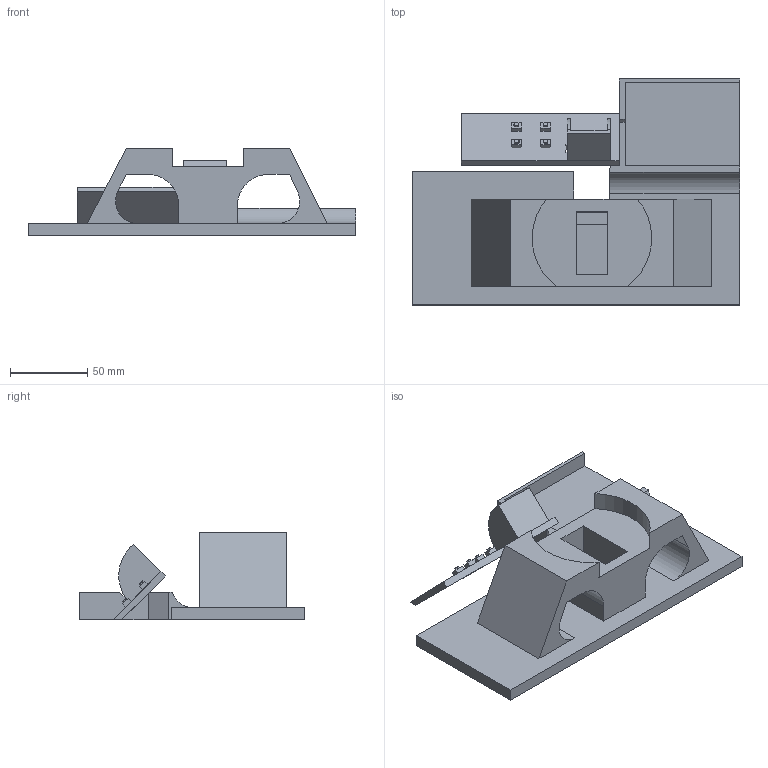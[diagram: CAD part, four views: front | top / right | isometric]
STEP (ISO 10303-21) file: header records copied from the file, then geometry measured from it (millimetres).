
FILE_DESCRIPTION(('STEP AP242 Edition 2','STEP AP242 Edition 2''CAx-IF Rec.Pracs.---Representation and Presentation of Product Manufacturing Information (PMI)---4.0---2014-10-13','STEP AP242 Edition 2''CAx-IF Rec.Pracs.---Representation and Presentation of Product Manufacturing Information (PMI)---4.0---2014-10-13''CAx-IF Rec.Pracs.---3D Tessellated Geometry---0.4---2014-09-14','STEP AP242 Edition 2''CAx-IF Rec.Pracs.---Representation and Presentation of Product Manufacturing Information (PMI)---4.0---2014-10-13''CAx-IF Rec.Pracs.---3D Tessellated Geometry---0.4---2014-09-14''2;1','STEP AP242 Edition 2''CAx-IF Rec.Pracs.---Representation and Presentation of Product Manufacturing Information (PMI)---4.0---2014-10-13''CAx-IF Rec.Pracs.---3D Tessellated Geometry---0.4---2014-09-14''2;1''CAx-IF Rec.Pracs.---User Defined Attributes---1.5---2016-08-15'),'2;1');
FILE_NAME('/vol/tmp/translate-4500610375692572013/Assembly 1 - Part 13.step','2026-02-26T04:21:28',(''),(''),'ST-DEVELOPER v20','ONSHAPE BY PTC INC, 1.211',' ');
FILE_SCHEMA(('AP242_MANAGED_MODEL_BASED_3D_ENGINEERING_MIM_LF { 1 0 10303 442 3 1 4 }'));
Length unit declared in the file: metre
Products named in the file (1): Part 13
Bounding box: 212.31 x 146.69 x 57 mm (x, y, z)
Volume: 370542.4 mm3; surface area: 99645 mm2
Topology: 1 solids, 1 shells, 101 faces, 286 edges, 187 vertices
Faces by surface type: plane 87, cylinder 14
Full cylindrical faces by diameter (mm): 2.933 x1, 2.934 x1, 3.002 x1, 3.22 x1
Entity records: 3332 total; most frequent: CARTESIAN_POINT 571, ORIENTED_EDGE 564, DIRECTION 514, EDGE_CURVE 282, LINE 254, VECTOR 254, VERTEX_POINT 187, AXIS2_PLACEMENT_3D 130
